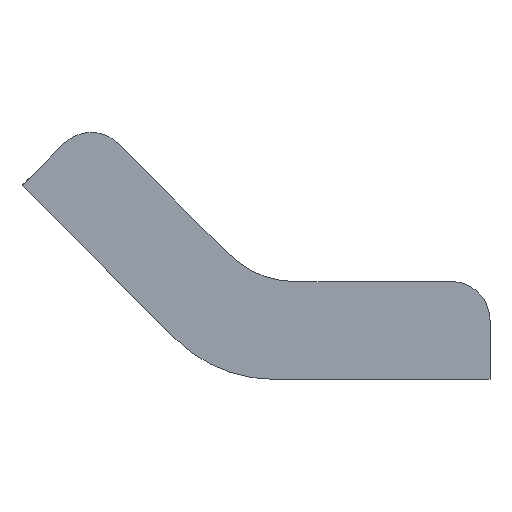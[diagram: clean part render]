
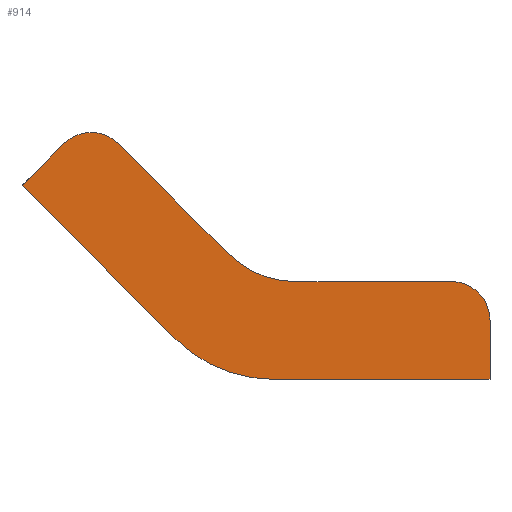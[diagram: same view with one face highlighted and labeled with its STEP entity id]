
A CAD part, top view. The second image highlights one B-rep face of the part: STEP entity #914.
In plain terms, the highlighted planar face has unit normal (0, 0, 1).
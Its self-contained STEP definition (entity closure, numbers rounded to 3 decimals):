
#8 = DIRECTION ( 'NONE',  ( 0., 0., -1. ) ) ;
#26 = VERTEX_POINT ( 'NONE', #1259 ) ;
#52 = DIRECTION ( 'NONE',  ( 1., 0., 0. ) ) ;
#58 = CARTESIAN_POINT ( 'NONE',  ( -125.589, 63., 42.5 ) ) ;
#64 = AXIS2_PLACEMENT_3D ( 'NONE', #1009, #1672, #1488 ) ;
#80 = PLANE ( 'NONE',  #981 ) ;
#103 = AXIS2_PLACEMENT_3D ( 'NONE', #1885, #1750, #1398 ) ;
#126 = ORIENTED_EDGE ( 'NONE', *, *, #625, .T. ) ;
#131 = LINE ( 'NONE', #1060, #181 ) ;
#151 = CARTESIAN_POINT ( 'NONE',  ( -239.142, 151.701, 42.5 ) ) ;
#181 = VECTOR ( 'NONE', #1068, 1000. ) ;
#214 = DIRECTION ( 'NONE',  ( 0., 0., 1. ) ) ;
#273 = VECTOR ( 'NONE', #1934, 1000. ) ;
#291 = AXIS2_PLACEMENT_3D ( 'NONE', #1908, #8, #1117 ) ;
#309 = VERTEX_POINT ( 'NONE', #380 ) ;
#345 = CARTESIAN_POINT ( 'NONE',  ( -168.015, 80.574, 42.5 ) ) ;
#358 = AXIS2_PLACEMENT_3D ( 'NONE', #1684, #214, #52 ) ;
#378 = VECTOR ( 'NONE', #687, 1000. ) ;
#380 = CARTESIAN_POINT ( 'NONE',  ( -301.368, 124.831, 42.5 ) ) ;
#422 = VERTEX_POINT ( 'NONE', #58 ) ;
#430 = VERTEX_POINT ( 'NONE', #345 ) ;
#442 = VERTEX_POINT ( 'NONE', #532 ) ;
#496 = VERTEX_POINT ( 'NONE', #1781 ) ;
#526 = CARTESIAN_POINT ( 'NONE',  ( -239.142, 151.701, 42.5 ) ) ;
#532 = CARTESIAN_POINT ( 'NONE',  ( 0., 0., 42.5 ) ) ;
#563 = CARTESIAN_POINT ( 'NONE',  ( 0., 0., 42.5 ) ) ;
#587 = EDGE_LOOP ( 'NONE', ( #1333, #1489, #933, #1111, #1893, #1982, #1752, #1034, #126, #1388 ) ) ;
#602 = CIRCLE ( 'NONE', #291, 60. ) ;
#625 = EDGE_CURVE ( 'NONE', #1356, #1846, #1782, .T. ) ;
#687 = DIRECTION ( 'NONE',  ( -0.707, 0.707, 0. ) ) ;
#719 = CARTESIAN_POINT ( 'NONE',  ( -274.497, 151.701, 42.5 ) ) ;
#728 = DIRECTION ( 'NONE',  ( 0., 0., 1. ) ) ;
#732 = CARTESIAN_POINT ( 'NONE',  ( -301.368, 124.831, 42.5 ) ) ;
#766 = LINE ( 'NONE', #563, #1178 ) ;
#778 = EDGE_CURVE ( 'NONE', #430, #1356, #1741, .T. ) ;
#879 = EDGE_CURVE ( 'NONE', #1785, #1588, #1827, .T. ) ;
#881 = DIRECTION ( 'NONE',  ( 1., 0., 0. ) ) ;
#914 = ADVANCED_FACE ( 'NONE', ( #1776 ), #80, .T. ) ;
#933 = ORIENTED_EDGE ( 'NONE', *, *, #1858, .T. ) ;
#981 = AXIS2_PLACEMENT_3D ( 'NONE', #1014, #728, #1492 ) ;
#1009 = CARTESIAN_POINT ( 'NONE',  ( -256.82, 134.023, 42.5 ) ) ;
#1014 = CARTESIAN_POINT ( 'NONE',  ( -25., 38., 42.5 ) ) ;
#1034 = ORIENTED_EDGE ( 'NONE', *, *, #778, .T. ) ;
#1051 = VECTOR ( 'NONE', #1199, 1000. ) ;
#1060 = CARTESIAN_POINT ( 'NONE',  ( -125.589, 63., 42.5 ) ) ;
#1068 = DIRECTION ( 'NONE',  ( -1., 0., 0. ) ) ;
#1076 = DIRECTION ( 'NONE',  ( 0.707, -0.707, 0. ) ) ;
#1111 = ORIENTED_EDGE ( 'NONE', *, *, #1368, .T. ) ;
#1117 = DIRECTION ( 'NONE',  ( 1., 0., 0. ) ) ;
#1178 = VECTOR ( 'NONE', #881, 1000. ) ;
#1191 = CIRCLE ( 'NONE', #103, 25. ) ;
#1199 = DIRECTION ( 'NONE',  ( -0.707, -0.707, 0. ) ) ;
#1259 = CARTESIAN_POINT ( 'NONE',  ( 0., 38., 42.5 ) ) ;
#1277 = EDGE_CURVE ( 'NONE', #26, #496, #1191, .T. ) ;
#1333 = ORIENTED_EDGE ( 'NONE', *, *, #1599, .T. ) ;
#1342 = VECTOR ( 'NONE', #1076, 1000. ) ;
#1356 = VERTEX_POINT ( 'NONE', #151 ) ;
#1368 = EDGE_CURVE ( 'NONE', #442, #26, #1722, .T. ) ;
#1388 = ORIENTED_EDGE ( 'NONE', *, *, #1747, .T. ) ;
#1398 = DIRECTION ( 'NONE',  ( 1., 0., 0. ) ) ;
#1488 = DIRECTION ( 'NONE',  ( 1., 0., 0. ) ) ;
#1489 = ORIENTED_EDGE ( 'NONE', *, *, #879, .T. ) ;
#1492 = DIRECTION ( 'NONE',  ( 1., 0., 0. ) ) ;
#1539 = CARTESIAN_POINT ( 'NONE',  ( -301.368, 124.831, 42.5 ) ) ;
#1588 = VERTEX_POINT ( 'NONE', #1691 ) ;
#1599 = EDGE_CURVE ( 'NONE', #309, #1785, #1819, .T. ) ;
#1641 = EDGE_CURVE ( 'NONE', #496, #422, #131, .T. ) ;
#1672 = DIRECTION ( 'NONE',  ( 0., 0., 1. ) ) ;
#1684 = CARTESIAN_POINT ( 'NONE',  ( -139.258, 90., 42.5 ) ) ;
#1691 = CARTESIAN_POINT ( 'NONE',  ( -139.258, 0., 42.5 ) ) ;
#1722 = LINE ( 'NONE', #1735, #273 ) ;
#1735 = CARTESIAN_POINT ( 'NONE',  ( 0., 38., 42.5 ) ) ;
#1741 = LINE ( 'NONE', #526, #378 ) ;
#1747 = EDGE_CURVE ( 'NONE', #1846, #309, #1888, .T. ) ;
#1750 = DIRECTION ( 'NONE',  ( 0., 0., 1. ) ) ;
#1752 = ORIENTED_EDGE ( 'NONE', *, *, #1962, .T. ) ;
#1776 = FACE_OUTER_BOUND ( 'NONE', #587, .T. ) ;
#1781 = CARTESIAN_POINT ( 'NONE',  ( -25., 63., 42.5 ) ) ;
#1782 = CIRCLE ( 'NONE', #64, 25. ) ;
#1785 = VERTEX_POINT ( 'NONE', #1802 ) ;
#1802 = CARTESIAN_POINT ( 'NONE',  ( -202.897, 26.36, 42.5 ) ) ;
#1819 = LINE ( 'NONE', #1539, #1342 ) ;
#1827 = CIRCLE ( 'NONE', #358, 90. ) ;
#1846 = VERTEX_POINT ( 'NONE', #719 ) ;
#1858 = EDGE_CURVE ( 'NONE', #1588, #442, #766, .T. ) ;
#1885 = CARTESIAN_POINT ( 'NONE',  ( -25., 38., 42.5 ) ) ;
#1888 = LINE ( 'NONE', #732, #1051 ) ;
#1893 = ORIENTED_EDGE ( 'NONE', *, *, #1277, .T. ) ;
#1908 = CARTESIAN_POINT ( 'NONE',  ( -125.589, 123., 42.5 ) ) ;
#1934 = DIRECTION ( 'NONE',  ( 0., 1., 0. ) ) ;
#1962 = EDGE_CURVE ( 'NONE', #422, #430, #602, .T. ) ;
#1982 = ORIENTED_EDGE ( 'NONE', *, *, #1641, .T. ) ;
